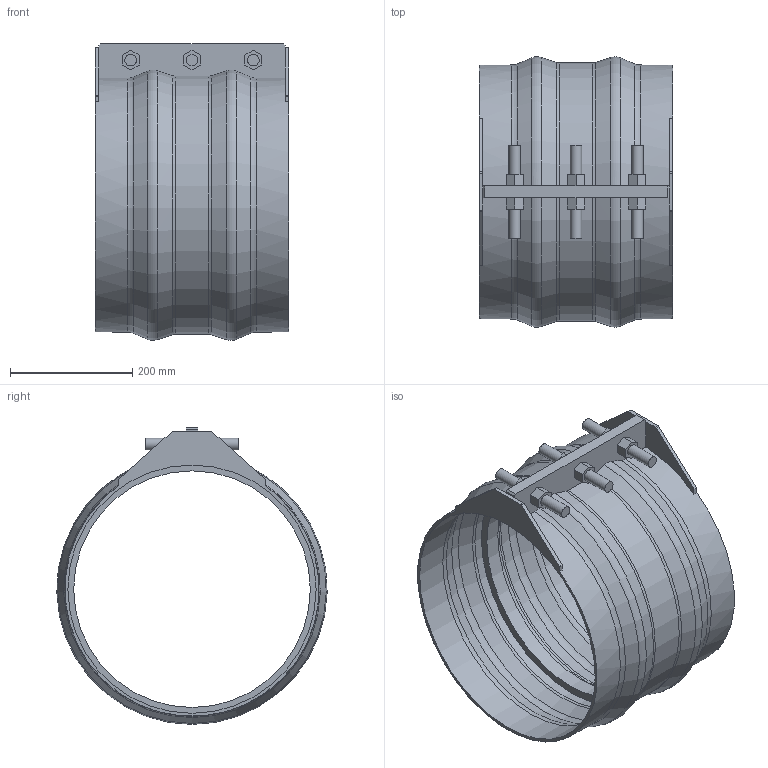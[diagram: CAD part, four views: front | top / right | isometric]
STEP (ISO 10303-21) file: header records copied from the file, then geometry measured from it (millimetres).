
FILE_DESCRIPTION(/* description */ ('VIC SS RESTRAINED COUPLING STYLE 233S (FLEX) (BRD)','CAx-IF Rec.Pracs.---Representation and Presentation of Product Manufacturing Information (PMI)---4.0---2014-10-13'),/* implementation_level */ '2;1');
FILE_NAME(/* name */ 'C:\Users\kkamble\AppData\Roaming\Autodesk\ApplicationPlugins\Back Up\Victaulic_VBSP_Coupling Flexible Restrained_Style 233S (BRD)\Victaulic_VBSP_Coupling Flexible Restrained_Style 233S (BRD)_250psi_16 (400).stp',/* time_stamp */ '2020-09-22T18:28:38+06:00',/* author */ ('Vjadhav'),/* organization */ ('Victaulic'),/* preprocessor_version */ 'ST-DEVELOPER v17.2',/* originating_system */ 'Autodesk Inventor 2019',/* authorisation */ '');
FILE_SCHEMA (('AP242_MANAGED_MODEL_BASED_3D_ENGINEERING_MIM_LF { 1 0 10303 442 1 1 4 }'));
Length unit declared in the file: inch
Products named in the file (1): Style_233S_Type_2_250psi-16.0
Bounding box: 317.5 x 442.51 x 485.78 mm (x, y, z)
Volume: 3015657.7 mm3; surface area: 991559.3 mm2
Topology: 1 solids, 1 shells, 115 faces, 309 edges, 210 vertices
Faces by surface type: plane 73, cylinder 22, torus 12, cone 8
Full cylindrical faces by diameter (mm): 19.05 x6, 387.35 x1, 406.4 x2, 412.75 x2
Entity records: 3970 total; most frequent: CARTESIAN_POINT 764, DIRECTION 645, ORIENTED_EDGE 618, EDGE_CURVE 309, AXIS2_PLACEMENT_3D 227, VERTEX_POINT 210, LINE 191, VECTOR 191
